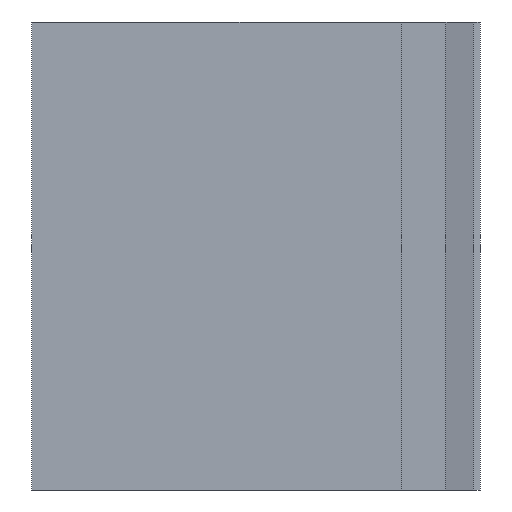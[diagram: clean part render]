
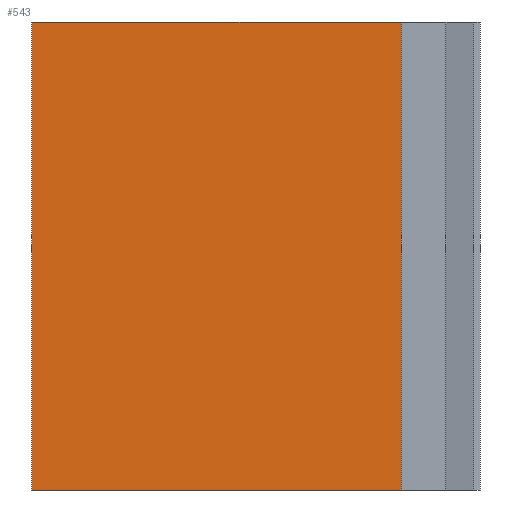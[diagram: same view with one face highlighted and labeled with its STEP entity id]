
A CAD part, left-side view. The second image highlights one B-rep face of the part: STEP entity #543.
In plain terms, the highlighted planar face has unit normal (-1, 0, 0).
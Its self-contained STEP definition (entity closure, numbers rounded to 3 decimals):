
#17=FACE_OUTER_BOUND('',#45,.T.);
#45=EDGE_LOOP('',(#365,#366,#367,#368));
#78=LINE('',#754,#156);
#79=LINE('',#756,#157);
#80=LINE('',#758,#158);
#81=LINE('',#759,#159);
#156=VECTOR('',#614,10.);
#157=VECTOR('',#615,10.);
#158=VECTOR('',#616,10.);
#159=VECTOR('',#617,10.);
#233=VERTEX_POINT('',#752);
#234=VERTEX_POINT('',#753);
#235=VERTEX_POINT('',#755);
#236=VERTEX_POINT('',#757);
#286=EDGE_CURVE('',#233,#234,#78,.T.);
#287=EDGE_CURVE('',#235,#233,#79,.T.);
#288=EDGE_CURVE('',#236,#235,#80,.T.);
#289=EDGE_CURVE('',#234,#236,#81,.T.);
#365=ORIENTED_EDGE('',*,*,#286,.F.);
#366=ORIENTED_EDGE('',*,*,#287,.F.);
#367=ORIENTED_EDGE('',*,*,#288,.F.);
#368=ORIENTED_EDGE('',*,*,#289,.F.);
#515=PLANE('',#573);
#543=ADVANCED_FACE('',(#17),#515,.F.);
#573=AXIS2_PLACEMENT_3D('',#751,#612,#613);
#612=DIRECTION('center_axis',(1.,0.,0.));
#613=DIRECTION('ref_axis',(0.,0.,-1.));
#614=DIRECTION('',(0.,1.,0.));
#615=DIRECTION('',(0.,0.,-1.));
#616=DIRECTION('',(0.,-1.,0.));
#617=DIRECTION('',(0.,0.,1.));
#751=CARTESIAN_POINT('Origin',(4.5,15.4,15.7));
#752=CARTESIAN_POINT('',(4.5,3.,0.));
#753=CARTESIAN_POINT('',(4.5,27.8,0.));
#754=CARTESIAN_POINT('',(4.5,7.874,0.));
#755=CARTESIAN_POINT('',(4.5,3.,31.4));
#756=CARTESIAN_POINT('',(4.5,3.,7.85));
#757=CARTESIAN_POINT('',(4.5,27.8,31.4));
#758=CARTESIAN_POINT('',(4.5,7.874,31.4));
#759=CARTESIAN_POINT('',(4.5,27.8,15.7));
